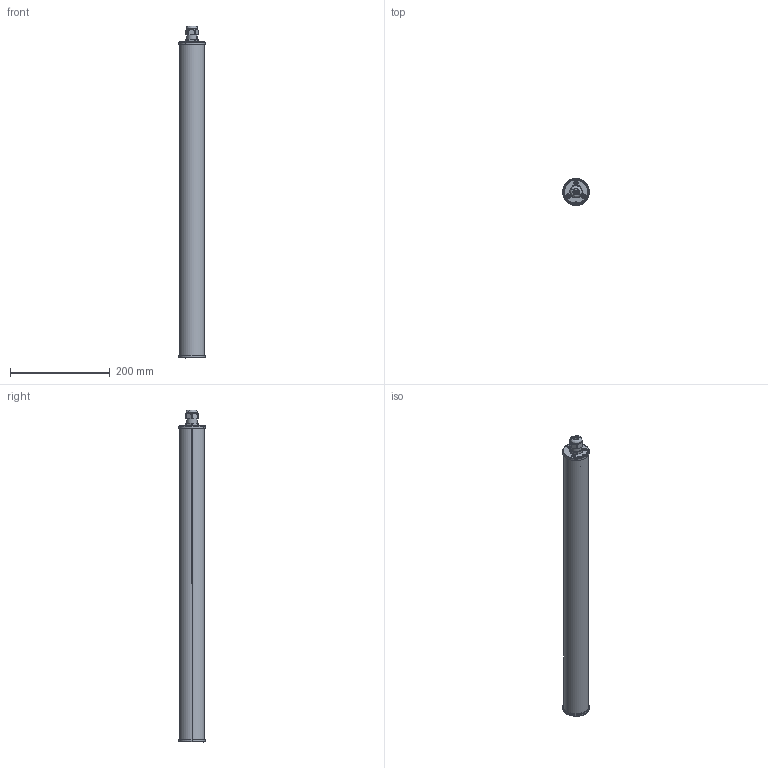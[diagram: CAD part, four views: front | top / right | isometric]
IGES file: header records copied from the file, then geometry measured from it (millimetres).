
Start section: SolidWorks IGES file using analytic representation for surfaces
Global section: file name: C:\Users\JoãoSantos\Desktop\02_3D.2D\01_2020\02_Linear\02_Tubo\01_Tubo_50\Normal\TUBO_50_632.IGS; native system: SolidWorks 2020; preprocessor: SolidWorks 2020; author: JoãoSantos; date: 201020.171200; units: millimetre
Bounding box: 53 x 53 x 664.7 mm (x, y, z)
Surface area: 226698.5 mm2 (no closed solid volume)
Topology: 0 solids, 0 shells, 1394 faces, 12359 edges, 12299 vertices
Faces by surface type: revolution 740, bspline 654
